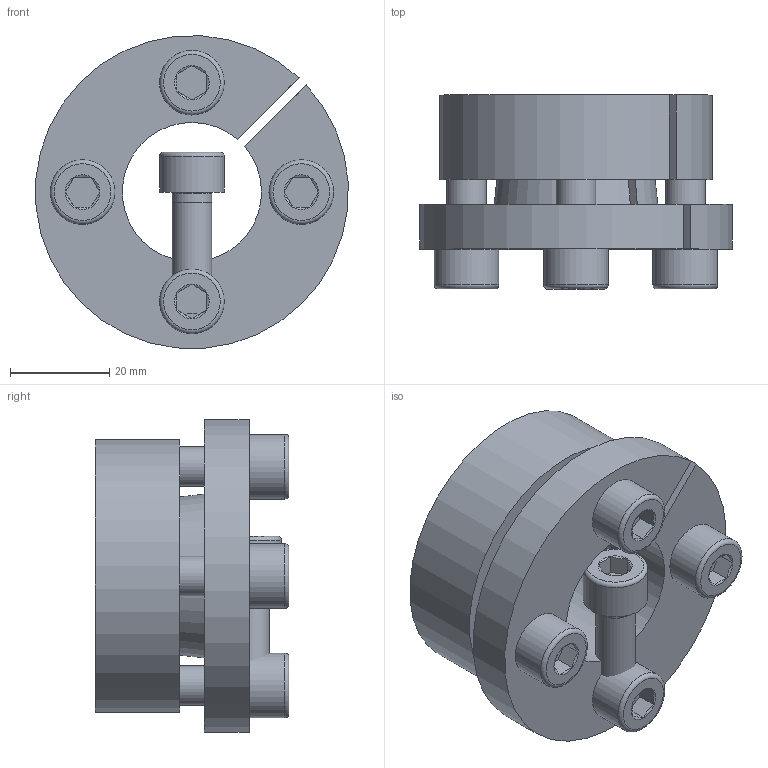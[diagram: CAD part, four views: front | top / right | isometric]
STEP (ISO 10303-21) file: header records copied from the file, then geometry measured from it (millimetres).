
FILE_DESCRIPTION( ( 'Unknown' ), '1' );
FILE_NAME( 'C:/Dokumente und Einstellungen/Sven/Desktop/15/KBS 15 - 28 x 55.stp', 'Unknown', ( 'Unknown' ), ( 'Unknown' ), 'XStep 1.0', 'Unknown', ' ' );
FILE_SCHEMA( ( 'automotive_design' ) );
Length unit declared in the file: millimetre
Products named in the file (3): Assem1; ISO EN DIN 4762 M8x25_9; KBS 15 - 28 x 55_0
Bounding box: 62.84 x 39 x 62.84 mm (x, y, z)
Volume: 106916.1 mm3; surface area: 43107.8 mm2
Topology: 7 solids, 7 shells, 165 faces, 342 edges, 211 vertices
Faces by surface type: plane 74, cylinder 42, cone 39, torus 10
Full cylindrical faces by diameter (mm): 6.647 x8, 7 x5, 8 x10, 9 x8, 13 x5
Entity records: 1434 total; most frequent: CARTESIAN_POINT 245, DIRECTION 216, ORIENTED_EDGE 162, AXIS2_PLACEMENT_3D 94, EDGE_CURVE 81, EDGE_LOOP 80, FACE_OUTER_BOUND 59, VERTEX_POINT 59
